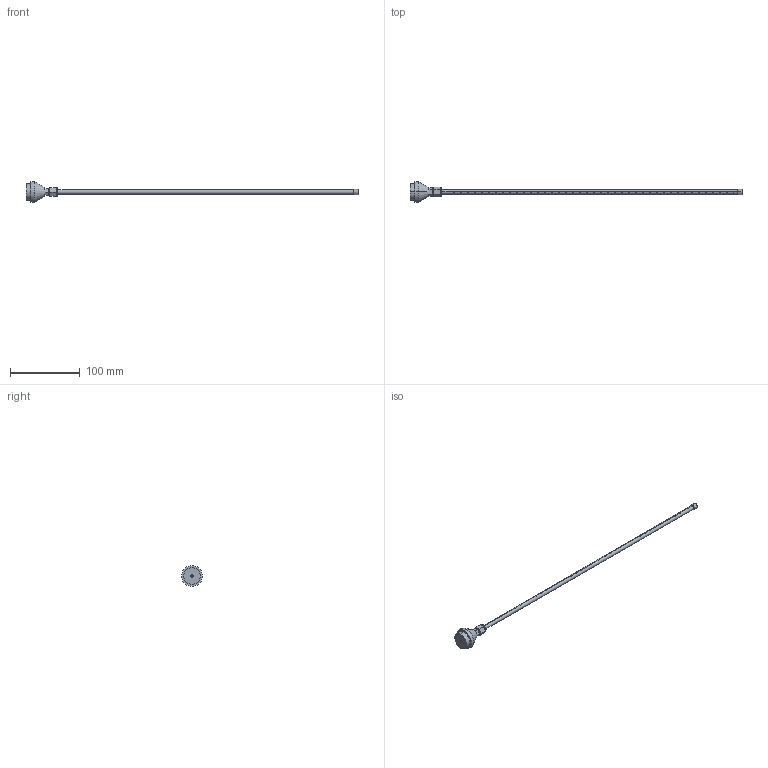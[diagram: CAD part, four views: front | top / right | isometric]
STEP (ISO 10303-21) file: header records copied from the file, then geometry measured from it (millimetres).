
FILE_DESCRIPTION (( 'STEP AP203' ), '1' );
FILE_NAME ('ER-AB40.STEP', '2005-09-05T00:35:00', ( '' ), ( '' ), 'SwSTEP 2.0', 'SolidWorks 2004073', '' );
FILE_SCHEMA (( 'CONFIG_CONTROL_DESIGN' ));
Length unit declared in the file: millimetre
Products named in the file (1): ER-AB40
Bounding box: 475 x 30 x 30 mm (x, y, z)
Volume: 23000.5 mm3; surface area: 16534.5 mm2
Topology: 1 solids, 1 shells, 125 faces, 420 edges, 222 vertices
Faces by surface type: cylinder 96, plane 27, cone 2
Entity records: 6075 total; most frequent: CARTESIAN_POINT 2654, ORIENTED_EDGE 840, DIRECTION 542, EDGE_CURVE 420, VECTOR 222, LINE 222, VERTEX_POINT 222, B_SPLINE_CURVE_WITH_KNOTS 164
